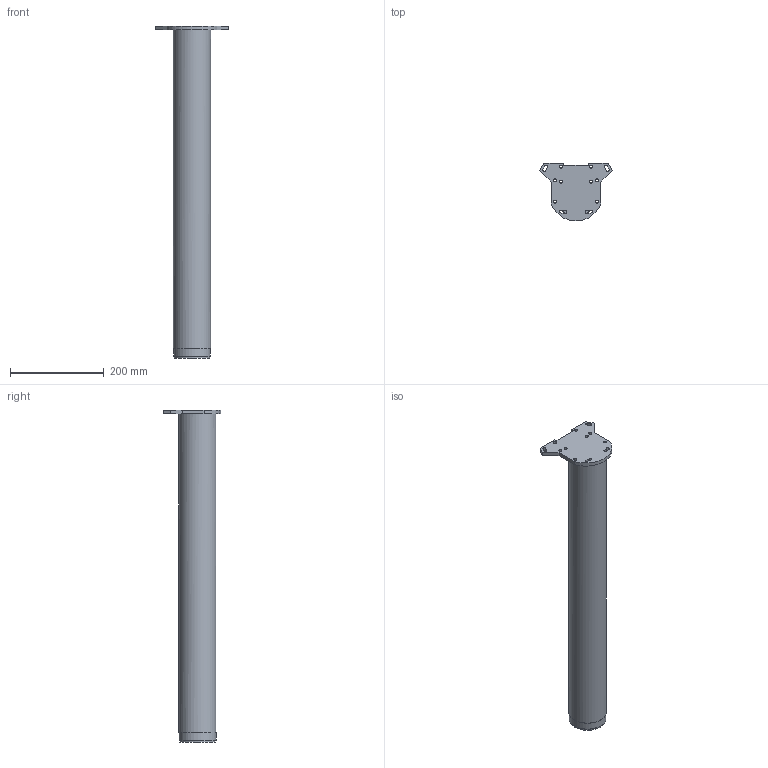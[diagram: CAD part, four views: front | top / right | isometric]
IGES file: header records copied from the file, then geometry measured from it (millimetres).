
Start section: Data from Parasolid IGES Translator 20.0.26, Copyright(c) 2006 Siemens P LM Software. All Rights Reserved.
Global section: file name: 70143.igs; native system: By Siemens PLM Incorporated; preprocessor: XPlus GENERIC/IGES 20.0.26; author: Noname; organization: Noname; date: 20210812.133037; units: millimetre
Bounding box: 155.69 x 124 x 710 mm (x, y, z)
Surface area: 207807.9 mm2 (no closed solid volume)
Topology: 0 solids, 0 shells, 50 faces, 274 edges, 257 vertices
Faces by surface type: extrusion 26, revolution 24
